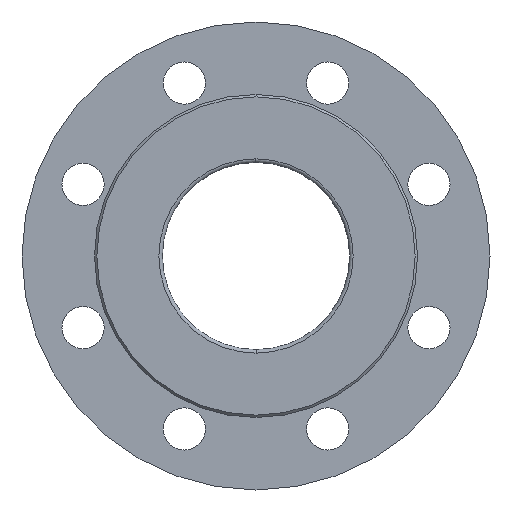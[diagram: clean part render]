
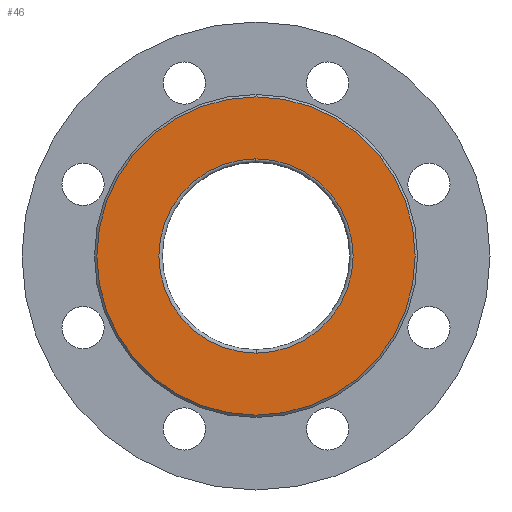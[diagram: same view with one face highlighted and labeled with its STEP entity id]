
A CAD part, left-side view. The second image highlights one B-rep face of the part: STEP entity #46.
In plain terms, the highlighted planar face has unit normal (-1, 0, 0).
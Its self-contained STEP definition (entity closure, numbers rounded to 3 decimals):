
#17 = EDGE_LOOP ( 'NONE', ( #23, #54 ) ) ;
#23 = ORIENTED_EDGE ( 'NONE', *, *, #570, .T. ) ;
#43 = EDGE_CURVE ( 'NONE', #524, #509, #865, .T. ) ;
#46 = ADVANCED_FACE ( 'NONE', ( #830, #831 ), #834, .F. ) ;
#47 = ORIENTED_EDGE ( 'NONE', *, *, #522, .T. ) ;
#49 = ORIENTED_EDGE ( 'NONE', *, *, #43, .T. ) ;
#54 = ORIENTED_EDGE ( 'NONE', *, *, #57, .T. ) ;
#57 = EDGE_CURVE ( 'NONE', #599, #589, #913, .T. ) ;
#107 = EDGE_LOOP ( 'NONE', ( #49, #47 ) ) ;
#509 = VERTEX_POINT ( 'NONE', #1640 ) ;
#522 = EDGE_CURVE ( 'NONE', #509, #524, #1673, .T. ) ;
#524 = VERTEX_POINT ( 'NONE', #1691 ) ;
#570 = EDGE_CURVE ( 'NONE', #589, #599, #1774, .T. ) ;
#589 = VERTEX_POINT ( 'NONE', #1855 ) ;
#599 = VERTEX_POINT ( 'NONE', #1804 ) ;
#795 = DIRECTION ( 'NONE',  ( 0., 0., -1. ) ) ;
#796 = DIRECTION ( 'NONE',  ( 1., 0., 0. ) ) ;
#797 = CARTESIAN_POINT ( 'NONE',  ( -58., 69., 0. ) ) ;
#824 = DIRECTION ( 'NONE',  ( 0., 0., -1. ) ) ;
#825 = DIRECTION ( 'NONE',  ( -1., 0., 0. ) ) ;
#826 = CARTESIAN_POINT ( 'NONE',  ( -58., 0., 0. ) ) ;
#830 = FACE_OUTER_BOUND ( 'NONE', #107, .T. ) ;
#831 = FACE_BOUND ( 'NONE', #17, .T. ) ;
#832 = AXIS2_PLACEMENT_3D ( 'NONE', #797, #796, #795 ) ;
#834 = PLANE ( 'NONE',  #832 ) ;
#865 = CIRCLE ( 'NONE', #890, 68. ) ;
#890 = AXIS2_PLACEMENT_3D ( 'NONE', #826, #825, #824 ) ;
#913 = CIRCLE ( 'NONE', #930, 41.5 ) ;
#927 = DIRECTION ( 'NONE',  ( 0., 0., -1. ) ) ;
#928 = DIRECTION ( 'NONE',  ( 1., 0., 0. ) ) ;
#929 = CARTESIAN_POINT ( 'NONE',  ( -58., 0., 0. ) ) ;
#930 = AXIS2_PLACEMENT_3D ( 'NONE', #929, #928, #927 ) ;
#1640 = CARTESIAN_POINT ( 'NONE',  ( -58., 0., 68. ) ) ;
#1673 = CIRCLE ( 'NONE', #1690, 68. ) ;
#1677 = DIRECTION ( 'NONE',  ( 0., 0., -1. ) ) ;
#1678 = DIRECTION ( 'NONE',  ( -1., 0., 0. ) ) ;
#1679 = CARTESIAN_POINT ( 'NONE',  ( -58., 0., 0. ) ) ;
#1690 = AXIS2_PLACEMENT_3D ( 'NONE', #1679, #1678, #1677 ) ;
#1691 = CARTESIAN_POINT ( 'NONE',  ( -58., 0., -68. ) ) ;
#1774 = CIRCLE ( 'NONE', #1834, 41.5 ) ;
#1804 = CARTESIAN_POINT ( 'NONE',  ( -58., 0., 41.5 ) ) ;
#1833 = CARTESIAN_POINT ( 'NONE',  ( -58., 0., 0. ) ) ;
#1834 = AXIS2_PLACEMENT_3D ( 'NONE', #1833, #1848, #1847 ) ;
#1847 = DIRECTION ( 'NONE',  ( 0., 0., -1. ) ) ;
#1848 = DIRECTION ( 'NONE',  ( 1., 0., 0. ) ) ;
#1855 = CARTESIAN_POINT ( 'NONE',  ( -58., 0., -41.5 ) ) ;
